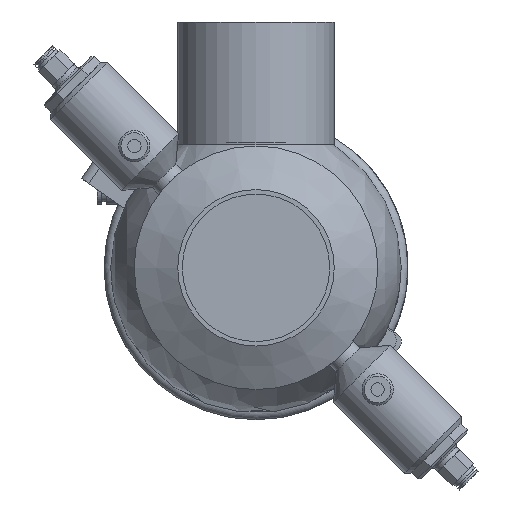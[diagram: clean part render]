
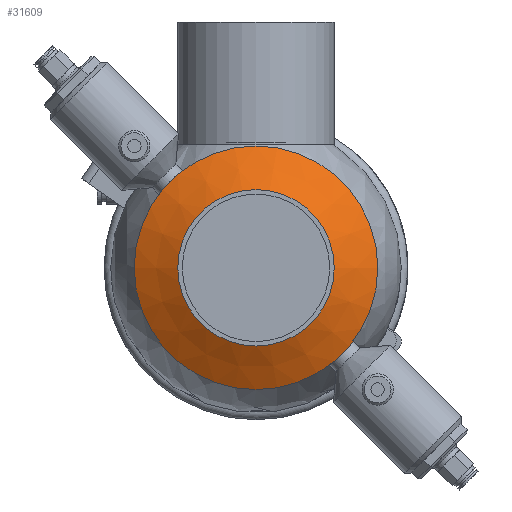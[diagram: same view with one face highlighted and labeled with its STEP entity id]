
A CAD part, front view. The second image highlights one B-rep face of the part: STEP entity #31609.
In plain terms, the highlighted conical face has half-angle 60 degrees and reference radius 54.5 mm.
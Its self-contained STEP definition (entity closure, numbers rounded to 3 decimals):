
#2029 = DIRECTION ( 'NONE',  ( 0., 1., 0. ) ) ;
#4715 = CARTESIAN_POINT ( 'NONE',  ( 0., -58., 54.5 ) ) ;
#8047 = EDGE_LOOP ( 'NONE', ( #50279 ) ) ;
#8545 = FACE_OUTER_BOUND ( 'NONE', #8047, .T. ) ;
#9214 = VERTEX_POINT ( 'NONE', #4715 ) ;
#10425 = DIRECTION ( 'NONE',  ( 0., 0., 1. ) ) ;
#13955 = DIRECTION ( 'NONE',  ( 0., 1., 0. ) ) ;
#19152 = CONICAL_SURFACE ( 'NONE', #44821, 54.5, 1.047 ) ;
#20546 = AXIS2_PLACEMENT_3D ( 'NONE', #49038, #54430, #10425 ) ;
#22542 = EDGE_CURVE ( 'NONE', #9214, #9214, #26046, .T. ) ;
#23260 = CIRCLE ( 'NONE', #45861, 35. ) ;
#23710 = EDGE_LOOP ( 'NONE', ( #56222 ) ) ;
#24288 = DIRECTION ( 'NONE',  ( 0., 0., 1. ) ) ;
#26046 = CIRCLE ( 'NONE', #20546, 54.5 ) ;
#26153 = DIRECTION ( 'NONE',  ( 0., 0., 1. ) ) ;
#29101 = FACE_BOUND ( 'NONE', #23710, .T. ) ;
#31609 = ADVANCED_FACE ( 'NONE', ( #29101, #8545 ), #19152, .T. ) ;
#31763 = EDGE_CURVE ( 'NONE', #46752, #46752, #23260, .T. ) ;
#35802 = CARTESIAN_POINT ( 'NONE',  ( 0., -69.258, 0. ) ) ;
#41933 = CARTESIAN_POINT ( 'NONE',  ( 0., -69.258, 35. ) ) ;
#44821 = AXIS2_PLACEMENT_3D ( 'NONE', #48694, #13955, #24288 ) ;
#45861 = AXIS2_PLACEMENT_3D ( 'NONE', #35802, #2029, #26153 ) ;
#46752 = VERTEX_POINT ( 'NONE', #41933 ) ;
#48694 = CARTESIAN_POINT ( 'NONE',  ( 0., -58., 0. ) ) ;
#49038 = CARTESIAN_POINT ( 'NONE',  ( 0., -58., 0. ) ) ;
#50279 = ORIENTED_EDGE ( 'NONE', *, *, #22542, .F. ) ;
#54430 = DIRECTION ( 'NONE',  ( 0., 1., 0. ) ) ;
#56222 = ORIENTED_EDGE ( 'NONE', *, *, #31763, .T. ) ;
